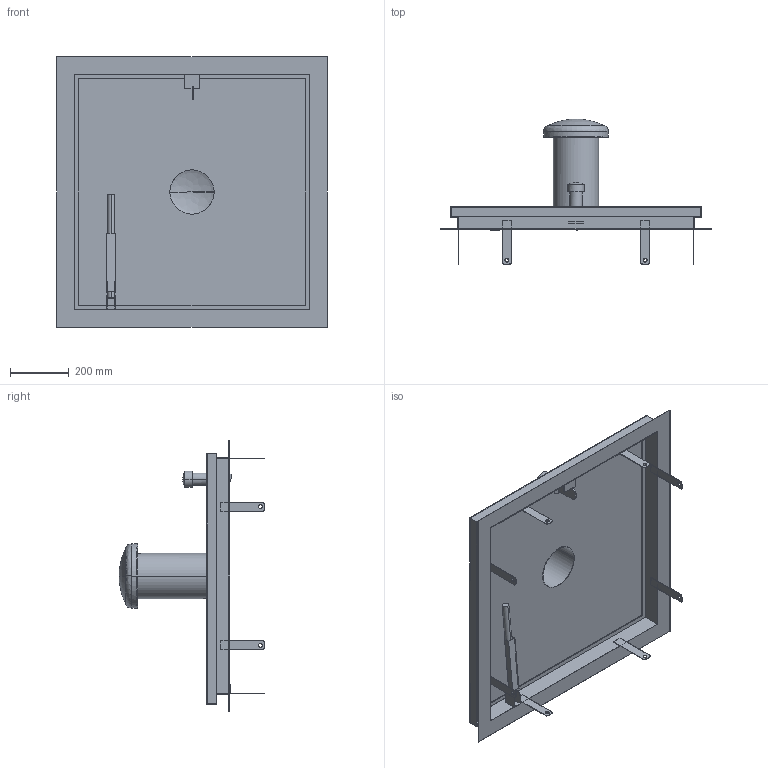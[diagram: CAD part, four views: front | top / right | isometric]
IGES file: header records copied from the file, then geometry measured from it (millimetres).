
Start section:  PTC IGES file: 52335829.igs
Global section: file name: 52335829.igs; native system: Creo Parametric by PTC Inc.; preprocessor: 2022162; author: wep; organization: Unknown; date: 20241219.073030; units: millimetre
Bounding box: 920 x 495 x 920 mm (x, y, z)
Surface area: 3063069.6 mm2 (no closed solid volume)
Topology: 0 solids, 0 shells, 746 faces, 4042 edges, 4036 vertices
Faces by surface type: bspline 418, extrusion 275, revolution 53
